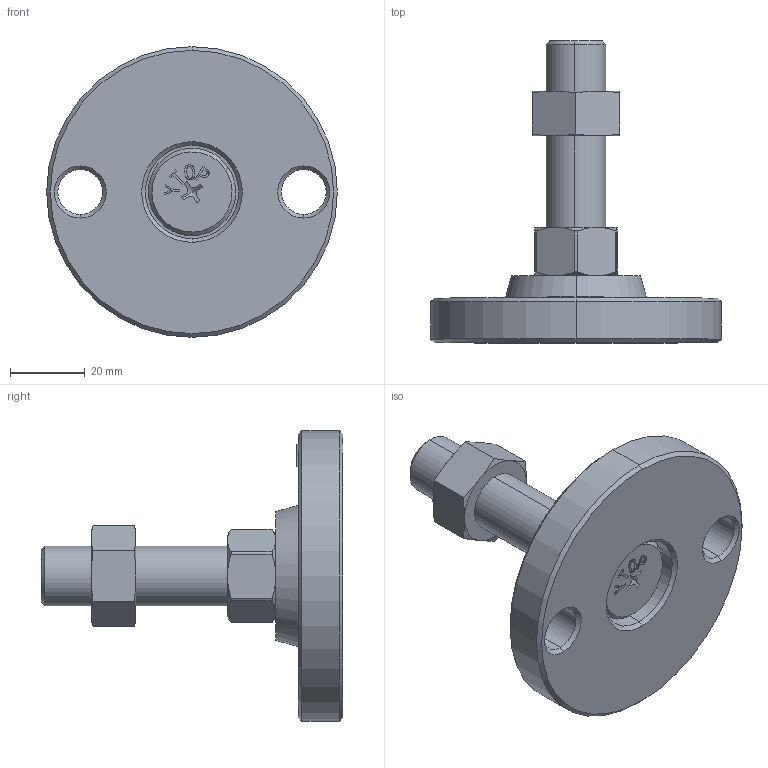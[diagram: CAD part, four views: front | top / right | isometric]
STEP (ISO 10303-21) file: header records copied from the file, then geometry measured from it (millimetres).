
FILE_DESCRIPTION (( 'STEP AP203' ), '1' );
FILE_NAME ('KL-80-1650-P.STEP', '2020-09-10T02:23:55', ( '' ), ( '' ), 'SwSTEP 2.0', 'SolidWorks 2016', '' );
FILE_SCHEMA (( 'CONFIG_CONTROL_DESIGN' ));
Length unit declared in the file: millimetre
Products named in the file (5): KL-80-1650-P; 脚垫调节六角螺母M16; 螺丝平底十字带商标M10系列_M10X14; 眻芛蹟邡M16炵蹈_M16X50; KL-80-0.1 KL80菁釱
Assembly tree (4 placements, depth 2):
  KL-80-1650-P
    KL-80-0.1 KL80菁釱
    眻芛蹟邡M16炵蹈_M16X50
    脚垫调节六角螺母M16
    螺丝平底十字带商标M10系列_M10X14
Bounding box: 78 x 81 x 78 mm (x, y, z)
Volume: 76750.6 mm3; surface area: 22335.2 mm2
Topology: 4 solids, 4 shells, 221 faces, 532 edges, 334 vertices
Faces by surface type: plane 101, cone 64, cylinder 32, bspline 24
Entity records: 8657 total; most frequent: CARTESIAN_POINT 3204, ORIENTED_EDGE 1056, DIRECTION 940, EDGE_CURVE 528, VERTEX_POINT 334, AXIS2_PLACEMENT_3D 326, VECTOR 288, LINE 288
